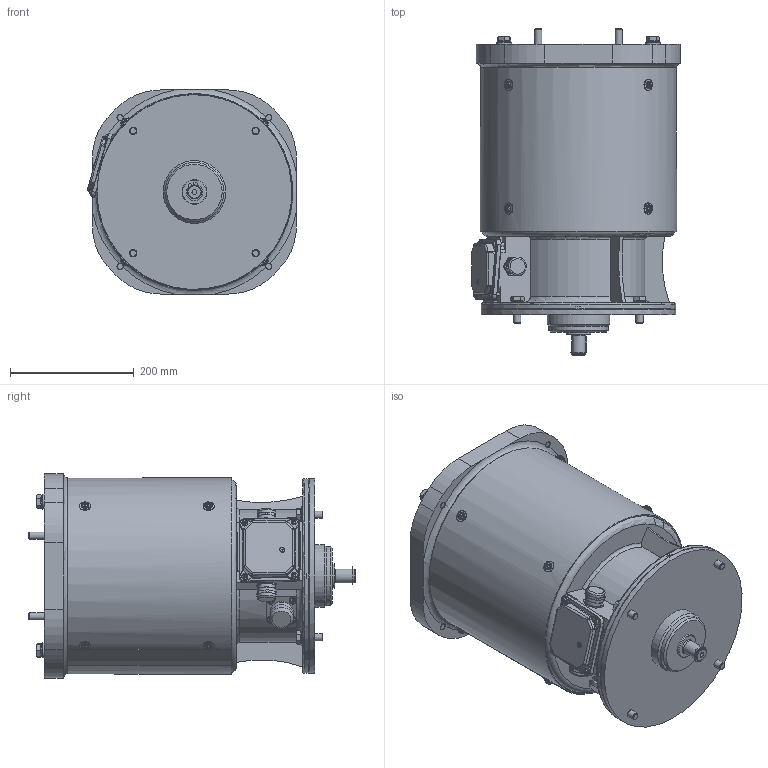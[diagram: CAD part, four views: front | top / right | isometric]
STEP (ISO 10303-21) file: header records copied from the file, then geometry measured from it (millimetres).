
FILE_DESCRIPTION(/* description */ (''),/* implementation_level */ '2;1');
FILE_NAME(/* name */ 'C:\Users\vlakrc01\Desktop\STP\01DEC\88902.stp',/* time_stamp */ '2017-12-01T09:52:46+01:00',/* author */ ('vlakrc01'),/* organization */ ('Hillmar Industries Ltd.'),/* preprocessor_version */ 'ST-DEVELOPER v16.1',/* originating_system */ 'Autodesk Inventor 2016',/* authorisation */ '');
FILE_SCHEMA (('AUTOMOTIVE_DESIGN { 1 0 10303 214 3 1 1 }'));
Products named in the file (1): 88902_Shrinkwrap_1
Bounding box: 337.93 x 527.25 x 330 mm (x, y, z)
Volume: 30873669.2 mm3; surface area: 1344671.6 mm2
Topology: 5 solids, 6 shells, 1471 faces, 4223 edges, 2653 vertices
Faces by surface type: plane 868, cylinder 219, cone 211, torus 81, bspline 64, sphere 28
Full cylindrical faces by diameter (mm): 5 x4, 6 x12, 8 x1, 9.5 x4, 10.106 x4, 11.053 x8, 12 x8, 13 x4, 17.2 x8, 18 x8, 20 x4, 20.85 x1, 22.225 x2, 24 x4, 28 x2, 30 x5, 40 x1, 95.6 x1, 101.6 x1, 115 x1, 195 x1, 208 x1, 312 x1, 315 x2
Entity records: 52778 total; most frequent: CARTESIAN_POINT 14353, ORIENTED_EDGE 8294, DIRECTION 7444, EDGE_CURVE 3970, AXIS2_PLACEMENT_3D 2891, VERTEX_POINT 2565, EDGE_LOOP 1737, LINE 1662
